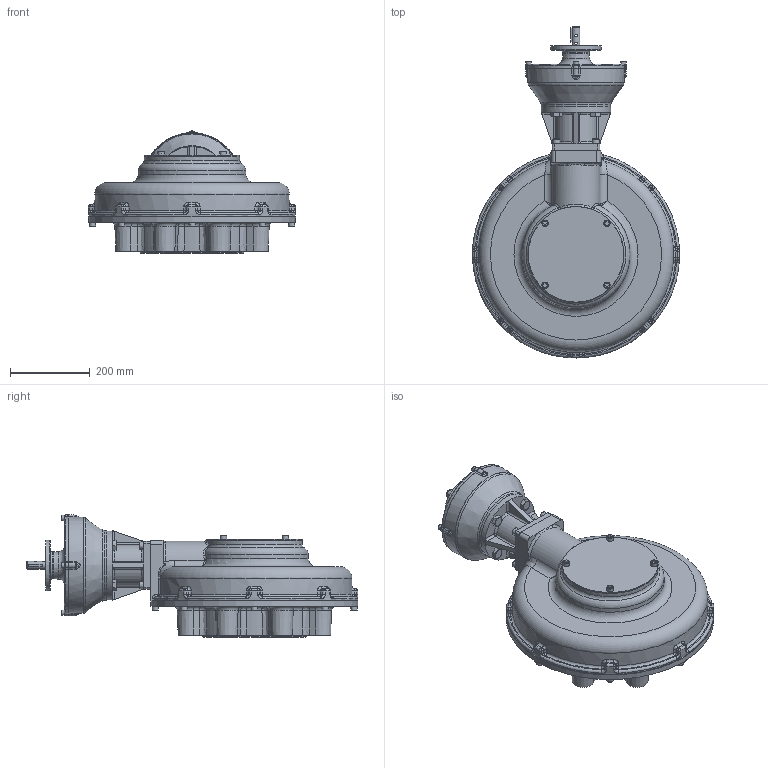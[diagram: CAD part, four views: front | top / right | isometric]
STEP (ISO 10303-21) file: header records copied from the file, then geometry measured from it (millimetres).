
FILE_DESCRIPTION( ( 'Unknown' ), '1' );
FILE_NAME( 'X:/CURRENT/PUB/Hob/HOB-2014/HOB-MPR/HOB-MPR-STP_FILES/PUB-HOB12MPR10-81-E-F35.stp', 'Unknown', ( 'Unknown' ), ( 'Unknown' ), 'PSStep 16.0.42', 'Unknown', ' ' );
FILE_SCHEMA( ( 'AUTOMOTIVE_DESIGN { 1 0 10303 214 1 1 1 1 }' ) );
Length unit declared in the file: millimetre
Products named in the file (36): 1; 2; 3; 4; trelleborg_trea00200-n7mm_b5c67wtxxcj74kwnwb2box077_01; 5; 6; 7; 8; 9; 10; 11; 12; 13; 14; 15; 16; 17; 18; 19; 20; 21; 22; 23; 24; 25; 26; 27; 28; 29; 30; 31; 32; 33; 34; 35
Bounding box: 520 x 833.48 x 307.47 mm (x, y, z)
Surface area: 2390289.1 mm2 (no closed solid volume)
Topology: 0 solids, 3489 shells, 3489 faces, 17914 edges, 17439 vertices
Faces by surface type: cylinder 1191, plane 993, cone 619, bspline 338, torus 270, sphere 78
Full cylindrical faces by diameter (mm): 6 x2, 6.647 x8, 8 x4, 8.5 x16, 10 x12, 10.2 x4, 10.5 x12, 11.5 x4, 12 x4, 12.5 x4, 13.27 x4, 13.835 x8, 16 x16, 16.5 x4, 18 x4, 19 x1, 20 x4, 22.098 x1, 23 x1, 25 x1, 26.211 x16, 29.5 x1, 29.583 x1, 30 x3, 50 x2, 55.115 x1, 70 x1, 90 x2, 94 x1, 99.555 x1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
Entity records: 284396 total; most frequent: CARTESIAN_POINT 127458, DIRECTION 27756, VERTEX_POINT 17267, ORIENTED_EDGE 17232, EDGE_CURVE 17232, AXIS2_PLACEMENT_3D 10657, CIRCLE 7438, LINE 6442
